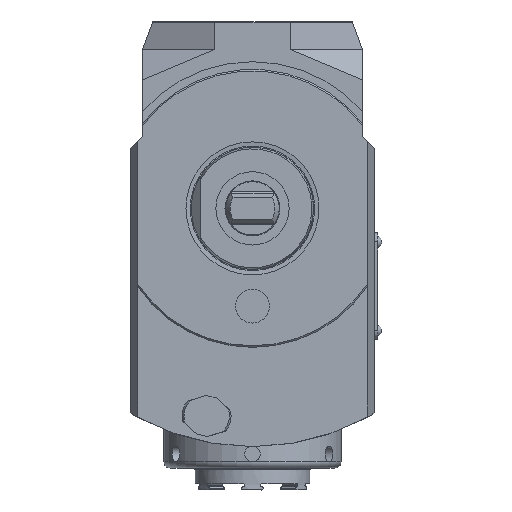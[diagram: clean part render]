
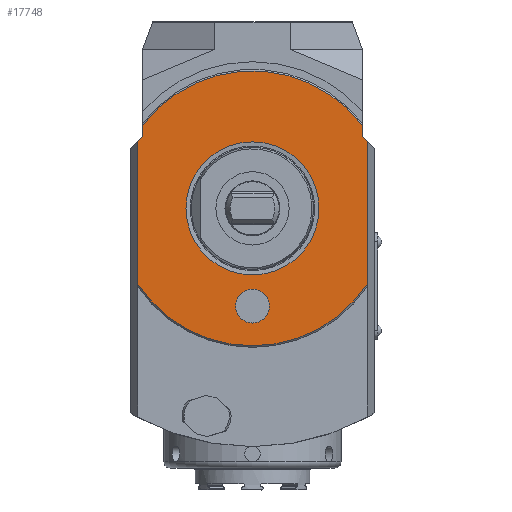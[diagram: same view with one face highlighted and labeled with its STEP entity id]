
A CAD part, left-side view. The second image highlights one B-rep face of the part: STEP entity #17748.
In plain terms, the highlighted planar face has unit normal (-1, 0, 0) as drawn and (0, 1, 0) by its records, which use the part's own axes.
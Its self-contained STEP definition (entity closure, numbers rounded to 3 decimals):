
#455=VECTOR('',#6767,1.);
#456=VECTOR('',#6770,1.);
#459=VECTOR('',#6779,1.);
#460=VECTOR('',#6780,1.);
#461=VECTOR('',#6781,1.);
#462=VECTOR('',#6784,1.);
#841=LINE('',#13287,#455);
#842=LINE('',#13290,#456);
#845=LINE('',#13301,#459);
#846=LINE('',#13303,#460);
#847=LINE('',#13305,#461);
#848=LINE('',#13307,#462);
#2417=ORIENTED_EDGE('',*,*,#4330,.F.);
#2418=ORIENTED_EDGE('',*,*,#4331,.F.);
#2419=ORIENTED_EDGE('',*,*,#4332,.F.);
#2420=ORIENTED_EDGE('',*,*,#4333,.F.);
#2421=ORIENTED_EDGE('',*,*,#4334,.F.);
#2422=ORIENTED_EDGE('',*,*,#4326,.F.);
#2423=ORIENTED_EDGE('',*,*,#4325,.F.);
#2424=ORIENTED_EDGE('',*,*,#4335,.F.);
#2425=ORIENTED_EDGE('',*,*,#4336,.F.);
#2426=ORIENTED_EDGE('',*,*,#4337,.T.);
#3059=CIRCLE('',#17073,45.);
#3060=CIRCLE('',#17074,45.);
#3061=CIRCLE('',#17075,5.55);
#3062=CIRCLE('',#17076,21.765);
#3554=VERTEX_POINT('',#13283);
#3555=VERTEX_POINT('',#13285);
#3556=VERTEX_POINT('',#13289);
#3559=VERTEX_POINT('',#13297);
#3560=VERTEX_POINT('',#13298);
#3561=VERTEX_POINT('',#13300);
#3562=VERTEX_POINT('',#13302);
#3563=VERTEX_POINT('',#13304);
#3564=VERTEX_POINT('',#13308);
#3565=VERTEX_POINT('',#13310);
#4325=EDGE_CURVE('',#3555,#3554,#841,.T.);
#4326=EDGE_CURVE('',#3554,#3556,#842,.T.);
#4330=EDGE_CURVE('',#3559,#3560,#3059,.T.);
#4331=EDGE_CURVE('',#3561,#3559,#845,.T.);
#4332=EDGE_CURVE('',#3562,#3561,#846,.T.);
#4333=EDGE_CURVE('',#3563,#3562,#847,.T.);
#4334=EDGE_CURVE('',#3556,#3563,#3060,.T.);
#4335=EDGE_CURVE('',#3560,#3555,#848,.T.);
#4336=EDGE_CURVE('',#3564,#3564,#3061,.T.);
#4337=EDGE_CURVE('',#3565,#3565,#3062,.T.);
#4868=EDGE_LOOP('',(#2417,#2418,#2419,#2420,#2421,#2422,#2423,#2424));
#4869=EDGE_LOOP('',(#2425));
#4870=EDGE_LOOP('',(#2426));
#5339=FACE_BOUND('',#4868,.T.);
#5340=FACE_BOUND('',#4869,.T.);
#5341=FACE_BOUND('',#4870,.T.);
#6767=DIRECTION('',(1.5,0.,1.5));
#6770=DIRECTION('',(3.5,0.,0.));
#6775=DIRECTION('',(0.,1.,0.));
#6776=DIRECTION('',(1.,0.,0.));
#6777=DIRECTION('',(0.,-1.,0.));
#6778=DIRECTION('',(-24.875,0.,37.5));
#6779=DIRECTION('',(-46.875,0.,0.));
#6780=DIRECTION('',(-1.5,0.,1.5));
#6781=DIRECTION('',(-3.5,0.,0.));
#6782=DIRECTION('',(0.,-1.,0.));
#6783=DIRECTION('',(24.875,0.,-37.5));
#6784=DIRECTION('',(46.875,0.,0.));
#6785=DIRECTION('',(0.,1.,0.));
#6786=DIRECTION('',(0.,0.,-5.55));
#6787=DIRECTION('',(0.,-1.,0.));
#6788=DIRECTION('',(0.,0.,21.765));
#13283=CARTESIAN_POINT('',(23.5,53.691,-36.));
#13285=CARTESIAN_POINT('',(22.,53.691,-37.5));
#13287=CARTESIAN_POINT('',(22.,53.691,-37.5));
#13289=CARTESIAN_POINT('',(27.,53.691,-36.));
#13290=CARTESIAN_POINT('',(23.5,53.691,-36.));
#13296=CARTESIAN_POINT('',(24.875,53.691,-37.5));
#13297=CARTESIAN_POINT('',(-24.875,53.691,37.5));
#13298=CARTESIAN_POINT('',(-24.875,53.691,-37.5));
#13299=CARTESIAN_POINT('',(0.,53.691,0.));
#13300=CARTESIAN_POINT('',(22.,53.691,37.5));
#13301=CARTESIAN_POINT('',(22.,53.691,37.5));
#13302=CARTESIAN_POINT('',(23.5,53.691,36.));
#13303=CARTESIAN_POINT('',(23.5,53.691,36.));
#13304=CARTESIAN_POINT('',(27.,53.691,36.));
#13305=CARTESIAN_POINT('',(27.,53.691,36.));
#13306=CARTESIAN_POINT('',(0.,53.691,0.));
#13307=CARTESIAN_POINT('',(-24.875,53.691,-37.5));
#13308=CARTESIAN_POINT('',(-32.,53.691,-5.55));
#13309=CARTESIAN_POINT('',(-32.,53.691,0.));
#13310=CARTESIAN_POINT('',(0.,53.691,21.765));
#13311=CARTESIAN_POINT('',(0.,53.691,0.));
#17072=AXIS2_PLACEMENT_3D('',#13296,#6775,#6776);
#17073=AXIS2_PLACEMENT_3D('',#13299,#6777,#6778);
#17074=AXIS2_PLACEMENT_3D('',#13306,#6782,#6783);
#17075=AXIS2_PLACEMENT_3D('',#13309,#6785,#6786);
#17076=AXIS2_PLACEMENT_3D('',#13311,#6787,#6788);
#17433=PLANE('',#17072);
#17748=ADVANCED_FACE('',(#5339,#5340,#5341),#17433,.T.);
